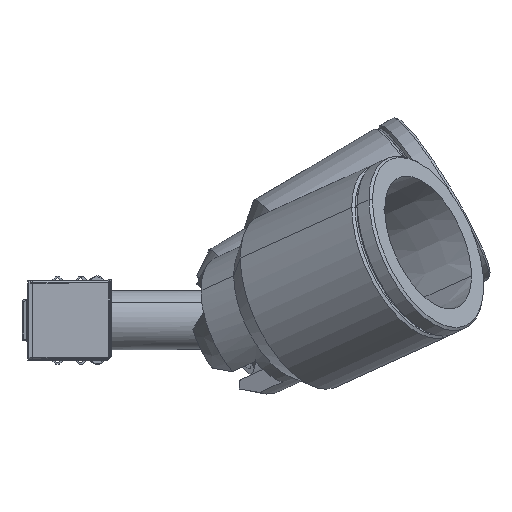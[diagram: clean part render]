
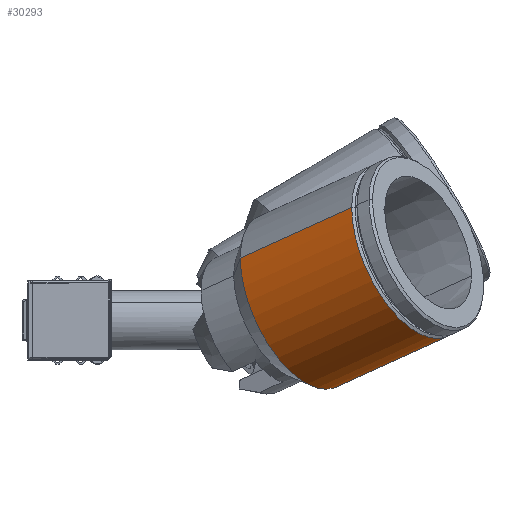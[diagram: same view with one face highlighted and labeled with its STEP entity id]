
A CAD part, left-side view. The second image highlights one B-rep face of the part: STEP entity #30293.
In plain terms, the highlighted cylindrical face has radius 19 mm (diameter 38 mm), a partial arc.
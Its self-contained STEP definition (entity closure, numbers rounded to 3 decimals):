
#1541 = VERTEX_POINT ( 'NONE', #45106 ) ;
#3681 = LINE ( 'NONE', #25944, #64274 ) ;
#5313 = ORIENTED_EDGE ( 'NONE', *, *, #9838, .T. ) ;
#5431 = DIRECTION ( 'NONE',  ( 0., -1., 0. ) ) ;
#5638 = CARTESIAN_POINT ( 'NONE',  ( 0., 17.705, 0. ) ) ;
#6262 = DIRECTION ( 'NONE',  ( 0., -1., 0. ) ) ;
#6353 = CIRCLE ( 'NONE', #49867, 19. ) ;
#7634 = DIRECTION ( 'NONE',  ( 0., -1., 0. ) ) ;
#9189 = AXIS2_PLACEMENT_3D ( 'NONE', #5638, #5431, #40982 ) ;
#9838 = EDGE_CURVE ( 'NONE', #31328, #40278, #64044, .T. ) ;
#10074 = CARTESIAN_POINT ( 'NONE',  ( 0., 46.212, -19. ) ) ;
#11910 = ORIENTED_EDGE ( 'NONE', *, *, #16553, .F. ) ;
#12749 = DIRECTION ( 'NONE',  ( 0., 0., -1. ) ) ;
#13711 = EDGE_LOOP ( 'NONE', ( #11910, #17066, #5313, #41410 ) ) ;
#16553 = EDGE_CURVE ( 'NONE', #1541, #54064, #3681, .T. ) ;
#17066 = ORIENTED_EDGE ( 'NONE', *, *, #48826, .T. ) ;
#18481 = VECTOR ( 'NONE', #7634, 1000. ) ;
#19216 = AXIS2_PLACEMENT_3D ( 'NONE', #28316, #63825, #12749 ) ;
#20378 = DIRECTION ( 'NONE',  ( 0., -1., 0. ) ) ;
#25944 = CARTESIAN_POINT ( 'NONE',  ( 0., -3.874, 19. ) ) ;
#28316 = CARTESIAN_POINT ( 'NONE',  ( 0., -3.874, 0. ) ) ;
#30293 = ADVANCED_FACE ( 'NONE', ( #53124 ), #43527, .T. ) ;
#31328 = VERTEX_POINT ( 'NONE', #10074 ) ;
#31383 = CARTESIAN_POINT ( 'NONE',  ( 0., 17.705, -19. ) ) ;
#31799 = DIRECTION ( 'NONE',  ( 0., 0., -1. ) ) ;
#38067 = CARTESIAN_POINT ( 'NONE',  ( 0., -3.874, -19. ) ) ;
#40278 = VERTEX_POINT ( 'NONE', #31383 ) ;
#40982 = DIRECTION ( 'NONE',  ( 0., 0., -1. ) ) ;
#41410 = ORIENTED_EDGE ( 'NONE', *, *, #64707, .F. ) ;
#43527 = CYLINDRICAL_SURFACE ( 'NONE', #19216, 19. ) ;
#44563 = CIRCLE ( 'NONE', #9189, 19. ) ;
#45106 = CARTESIAN_POINT ( 'NONE',  ( 0., 46.212, 19. ) ) ;
#47375 = CARTESIAN_POINT ( 'NONE',  ( 0., 46.212, 0. ) ) ;
#48826 = EDGE_CURVE ( 'NONE', #1541, #31328, #6353, .T. ) ;
#49570 = CARTESIAN_POINT ( 'NONE',  ( 0., 17.705, 19. ) ) ;
#49867 = AXIS2_PLACEMENT_3D ( 'NONE', #47375, #6262, #31799 ) ;
#53124 = FACE_OUTER_BOUND ( 'NONE', #13711, .T. ) ;
#54064 = VERTEX_POINT ( 'NONE', #49570 ) ;
#63825 = DIRECTION ( 'NONE',  ( 0., -1., 0. ) ) ;
#64044 = LINE ( 'NONE', #38067, #18481 ) ;
#64274 = VECTOR ( 'NONE', #20378, 1000. ) ;
#64707 = EDGE_CURVE ( 'NONE', #54064, #40278, #44563, .T. ) ;
